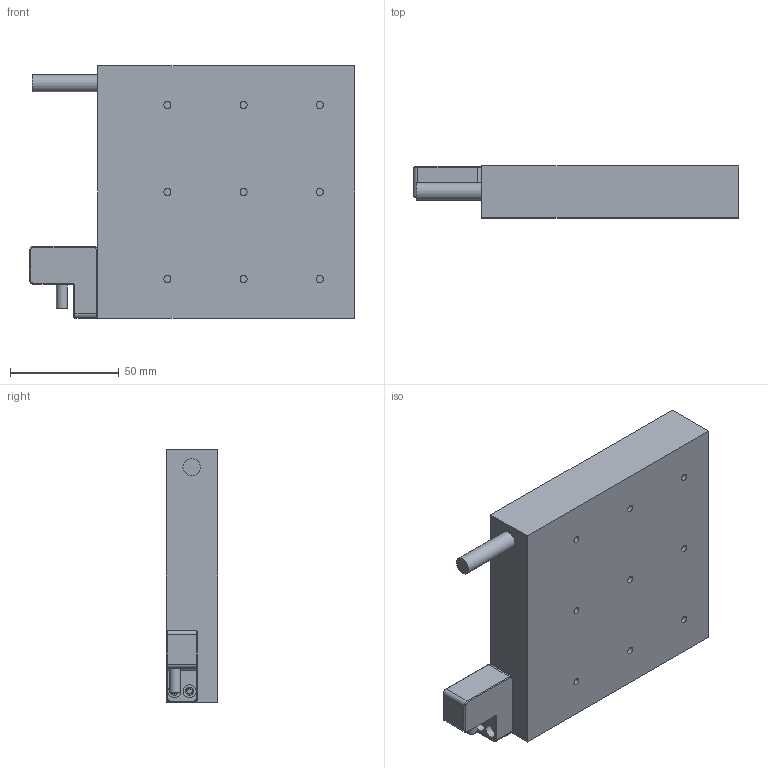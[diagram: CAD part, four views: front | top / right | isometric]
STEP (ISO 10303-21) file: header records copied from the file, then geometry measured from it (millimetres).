
FILE_DESCRIPTION( ( 'Unknown' ), '1' );
FILE_NAME( 'C:/Users/gyt/Desktop/DPD116C2.stp', 'Unknown', ( 'Unknown' ), ( 'Unknown' ), 'PSStep 17.0.49', 'Unknown', ' ' );
FILE_SCHEMA( ( 'AUTOMOTIVE_DESIGN { 1 0 10303 214 1 1 1 1 }' ) );
Length unit declared in the file: millimetre
Products named in the file (1): 霍尔支架
Bounding box: 149.4 x 23.7 x 116 mm (x, y, z)
Volume: 335580.6 mm3; surface area: 42849.4 mm2
Topology: 1 solids, 2 shells, 83 faces, 159 edges, 98 vertices
Faces by surface type: plane 44, cylinder 25, cone 14
Full cylindrical faces by diameter (mm): 1.567 x1, 2.459 x2, 3.242 x9, 3.6 x2, 5 x1, 6 x2, 6.2 x1, 8 x1
Entity records: 2634 total; most frequent: DIRECTION 366, CARTESIAN_POINT 315, ORIENTED_EDGE 270, AXIS2_PLACEMENT_3D 147, EDGE_CURVE 135, EDGE_LOOP 122, FACE_OUTER_BOUND 102, VERTEX_POINT 96
